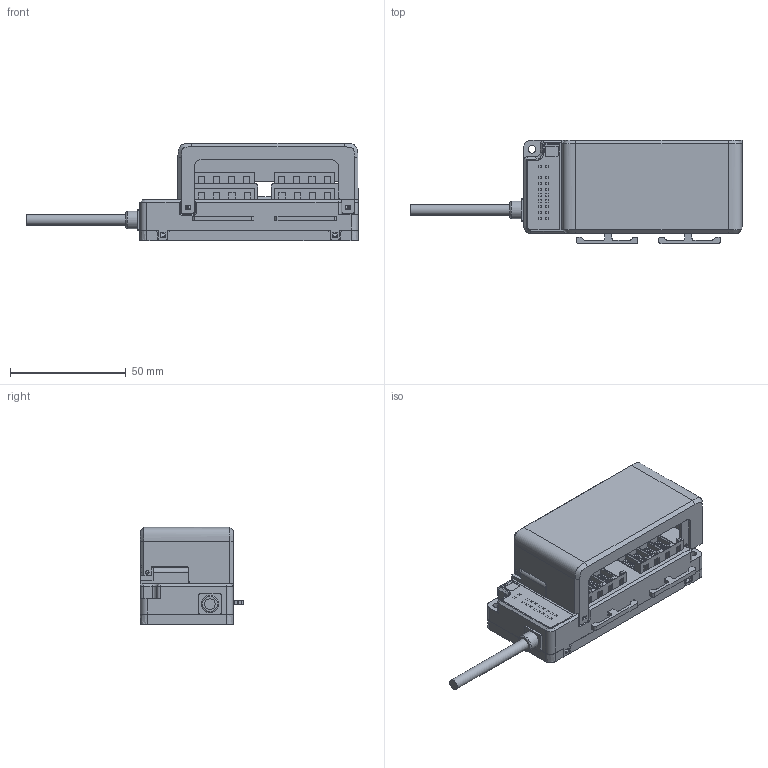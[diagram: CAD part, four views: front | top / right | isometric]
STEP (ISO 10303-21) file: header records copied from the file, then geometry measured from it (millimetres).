
FILE_DESCRIPTION(/* description */ (''),/* implementation_level */ '2;1');
FILE_NAME(/* name */ 'LS系列-16点从站.stp',/* time_stamp */ '2023-10-07T17:39:14+08:00',/* author */ (''),/* organization */ (''),/* preprocessor_version */ 'ST-DEVELOPER v16',/* originating_system */ 'SIEMENS PLM Software NX 10.0',/* authorisation */ '');
FILE_SCHEMA (('AP203_CONFIGURATION_CONTROLLED_3D_DESIGN_OF_MECHANICAL_PARTS_AND_ASSEMBLIES_MIM_LF { 1 0 10303 403 2 1 2}'));
Products named in the file (1): chao8068F8924ybm
Bounding box: 143.44 x 44.69 x 42 mm (x, y, z)
Volume: 64300.6 mm3; surface area: 55756 mm2
Topology: 14 solids, 14 shells, 2114 faces, 5622 edges, 3613 vertices
Faces by surface type: plane 1963, cylinder 86, bspline 54, cone 8, sphere 2, torus 1
Full cylindrical faces by diameter (mm): 1.5 x2, 1.6 x2, 3.3 x3, 4.6 x1, 7.5 x1
Entity records: 67204 total; most frequent: CARTESIAN_POINT 14868, ORIENTED_EDGE 11200, DIRECTION 9712, EDGE_CURVE 5600, LINE 5224, VECTOR 5224, VERTEX_POINT 3608, EDGE_LOOP 2402
